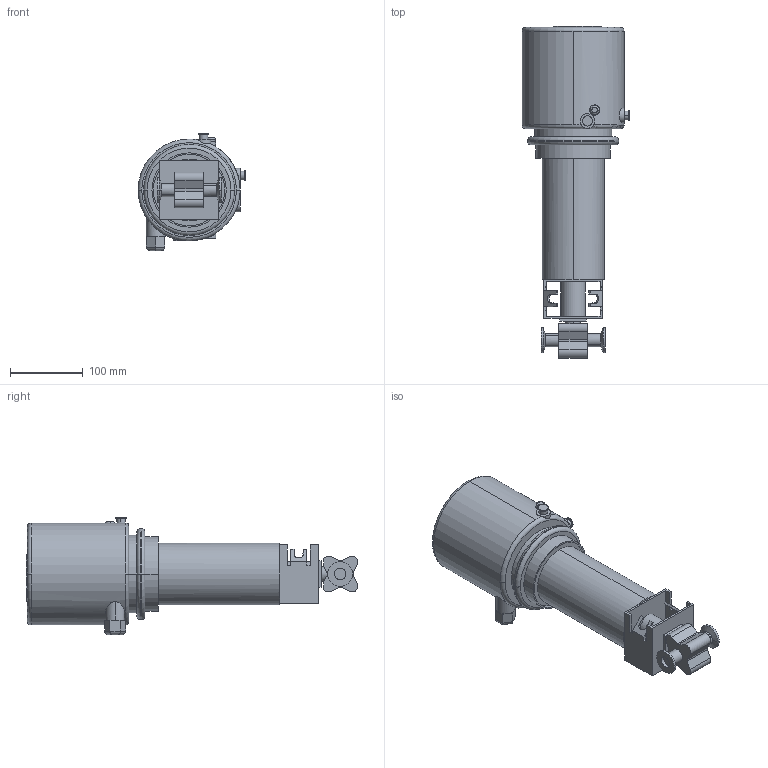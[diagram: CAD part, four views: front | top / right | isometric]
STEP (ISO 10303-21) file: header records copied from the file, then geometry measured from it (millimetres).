
FILE_DESCRIPTION(('Creo Elements/Direct Modeling STEP Export'),'2;1');
FILE_NAME('BLV1-DN15-NC-12CL-CU4.stp','2019-05-09T13:42:30',(''),(''),'Creo Elements/Direct Modeling STEP processor for AP214 (Solid Model)','Creo Elements/Direct Modeling 19.0F 14-Feb-2017 (C) Parametric Technology GmbH','');
FILE_SCHEMA(('AUTOMOTIVE_DESIGN { 1 0 10303 214 1 1 1 1 }'));
Length unit declared in the file: millimetre
Products named in the file (2): BLV1-DN15-NC-12CL-CU4
Assembly tree (1 placements, depth 2):
  BLV1-DN15-NC-12CL-CU4
    BLV1-DN15-NC-12CL-CU4
Bounding box: 148 x 455.96 x 161.4 mm (x, y, z)
Volume: 3652834.2 mm3; surface area: 222121.7 mm2
Topology: 1 solids, 1 shells, 240 faces, 618 edges, 403 vertices
Faces by surface type: plane 106, cylinder 85, extrusion 35, torus 10, cone 4
Entity records: 10618 total; most frequent: CARTESIAN_POINT 5152, ORIENTED_EDGE 1238, DIRECTION 954, EDGE_CURVE 619, VERTEX_POINT 403, VECTOR 330, AXIS2_PLACEMENT_3D 312, LINE 295
